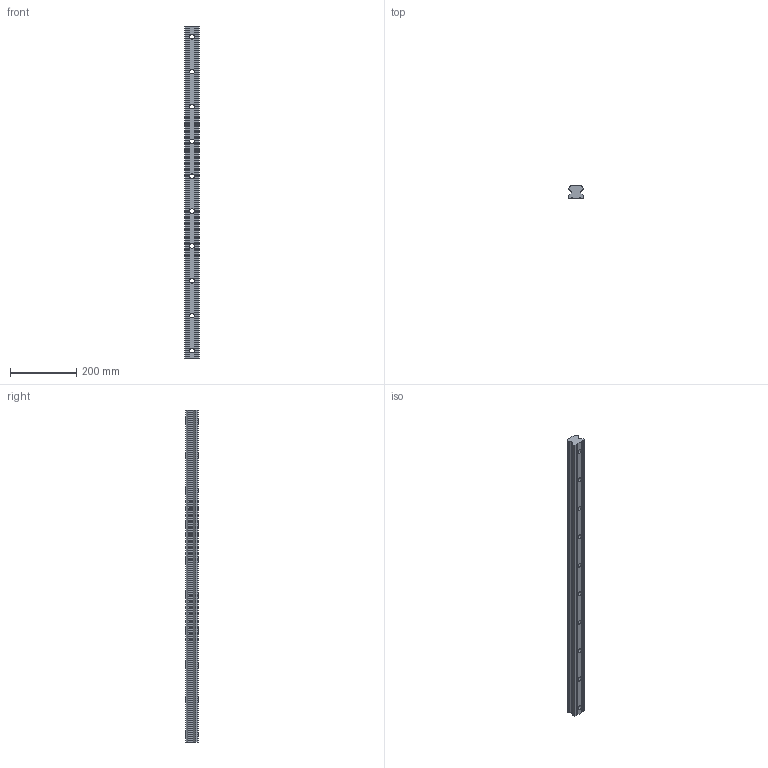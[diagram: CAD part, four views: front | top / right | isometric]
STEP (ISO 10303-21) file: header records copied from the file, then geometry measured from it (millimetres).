
FILE_DESCRIPTION (( 'STEP AP214' ), '1' );
FILE_NAME ('2.0006 Lineaarijohde HGR45R-C.STEP', '2024-04-22T07:33:08', ( '' ), ( '' ), 'SwSTEP 2.0', 'SolidWorks 2024', '' );
FILE_SCHEMA (( 'AUTOMOTIVE_DESIGN' ));
Length unit declared in the file: millimetre
Products named in the file (1): 2.0006 Lineaarijohde HGR45R-C
Bounding box: 45 x 38 x 1000 mm (x, y, z)
Volume: 1335694.9 mm3; surface area: 191181.6 mm2
Topology: 1 solids, 1 shells, 94 faces, 246 edges, 164 vertices
Faces by surface type: cylinder 54, plane 40
Entity records: 3001 total; most frequent: DIRECTION 544, CARTESIAN_POINT 505, ORIENTED_EDGE 492, EDGE_CURVE 246, AXIS2_PLACEMENT_3D 203, VERTEX_POINT 164, VECTOR 138, LINE 138
